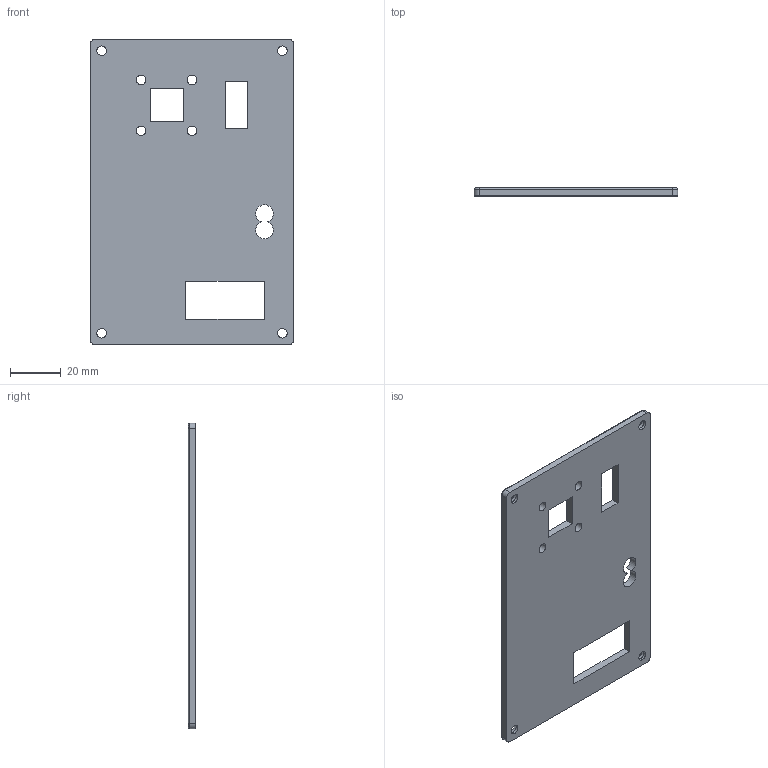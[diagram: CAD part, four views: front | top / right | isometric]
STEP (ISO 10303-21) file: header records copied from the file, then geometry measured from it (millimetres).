
FILE_DESCRIPTION(/* description */ (''),/* implementation_level */ '2;1');
FILE_NAME(/* name */ 'Lid_Plexiglass_V5.stp',/* time_stamp */ '2026-03-25T13:33:19-04:00',/* author */ ('vckot'),/* organization */ (''),/* preprocessor_version */ 'ST-DEVELOPER v20.1',/* originating_system */ 'Autodesk Inventor 2026',/* authorisation */ '');
FILE_SCHEMA (('AUTOMOTIVE_DESIGN { 1 0 10303 214 3 1 1 }'));
Length unit declared in the file: millimetre
Products named in the file (1): PCB_Housing_06_V4
Bounding box: 80 x 3 x 120 mm (x, y, z)
Volume: 25647.6 mm3; surface area: 19738.7 mm2
Topology: 1 solids, 1 shells, 131 faces, 368 edges, 272 vertices
Faces by surface type: plane 77, bspline 28, cylinder 22, torus 4
Full cylindrical faces by diameter (mm): 3.75 x8, 6 x4
Entity records: 4375 total; most frequent: CARTESIAN_POINT 1108, ORIENTED_EDGE 680, DIRECTION 564, EDGE_CURVE 340, LINE 236, VECTOR 236, VERTEX_POINT 224, EDGE_LOOP 168
